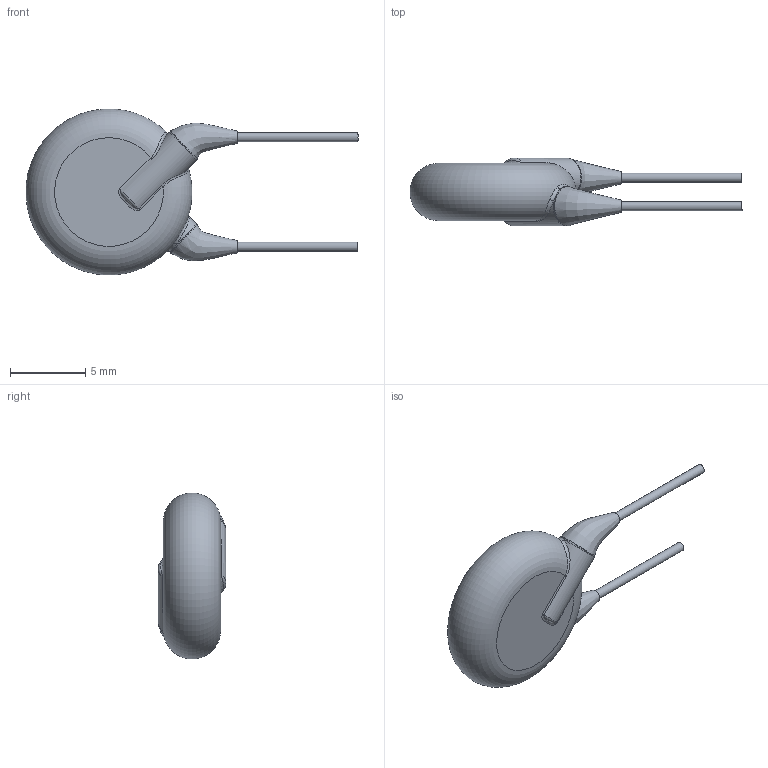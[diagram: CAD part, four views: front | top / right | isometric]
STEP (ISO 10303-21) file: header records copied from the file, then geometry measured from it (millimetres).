
FILE_DESCRIPTION(/* description */ (''),/* implementation_level */ '2;1');
FILE_NAME(/* name */ 'I:\Marketing\M6t1\3D-Models\Zchng-Werk-3\Upload for homepage\Roederstein\WYO\Y5U_250-440\WYO332MCMCD0KR\WYO332MCMCD0KR.stp',/* time_stamp */ '2018-03-21T11:09:11+01:00',/* author */ ('sheinrich'),/* organization */ (''),/* preprocessor_version */ 'ST-DEVELOPER v16.1',/* originating_system */ 'Autodesk Inventor 2016',/* authorisation */ '');
FILE_SCHEMA (('AUTOMOTIVE_DESIGN { 1 0 10303 214 3 1 1 }'));
Length unit declared in the file: centimetre
Products named in the file (1): WYO332MCMCD0KR
Bounding box: 22 x 4.5 x 11 mm (x, y, z)
Volume: 346.6 mm3; surface area: 338.1 mm2
Topology: 1 solids, 1 shells, 31 faces, 68 edges, 41 vertices
Faces by surface type: bspline 12, cylinder 8, plane 6, torus 5
Full cylindrical faces by diameter (mm): 0.6 x2
Entity records: 1748 total; most frequent: CARTESIAN_POINT 1085, ORIENTED_EDGE 128, DIRECTION 104, EDGE_CURVE 64, AXIS2_PLACEMENT_3D 48, VERTEX_POINT 40, EDGE_LOOP 36, STYLED_ITEM 32
